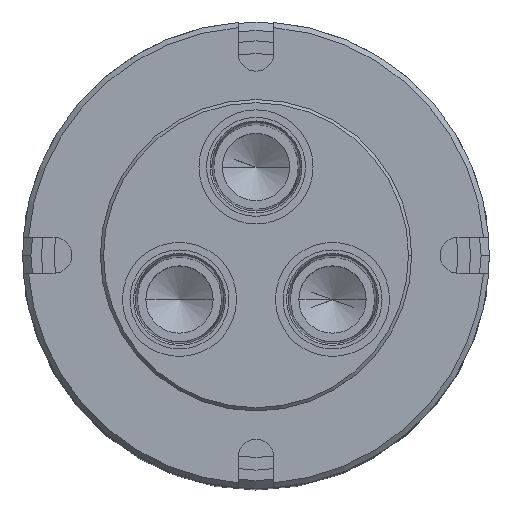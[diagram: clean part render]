
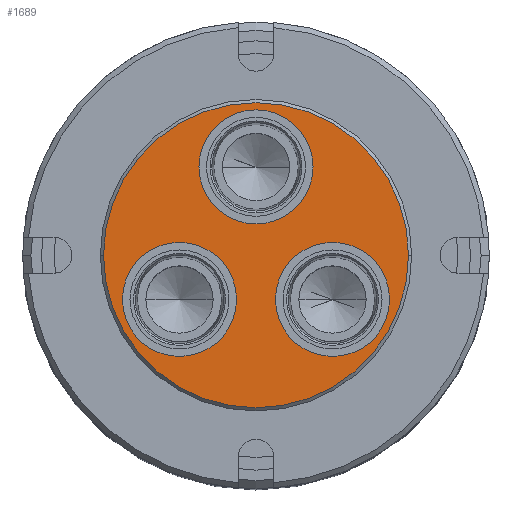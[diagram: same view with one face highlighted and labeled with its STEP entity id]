
A CAD part, top view. The second image highlights one B-rep face of the part: STEP entity #1689.
In plain terms, the highlighted planar face has unit normal (0, 0, 1).
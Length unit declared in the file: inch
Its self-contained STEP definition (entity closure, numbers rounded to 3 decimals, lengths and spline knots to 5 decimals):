
#87 = VERTEX_POINT ( 'NONE', #256 ) ;
#88 = VERTEX_POINT ( 'NONE', #257 ) ;
#89 = VERTEX_POINT ( 'NONE', #258 ) ;
#90 = VERTEX_POINT ( 'NONE', #259 ) ;
#106 = VERTEX_POINT ( 'NONE', #275 ) ;
#107 = VERTEX_POINT ( 'NONE', #276 ) ;
#256 = CARTESIAN_POINT ( 'NONE',  ( 0.847, 1.3125, 0. ) ) ;
#257 = CARTESIAN_POINT ( 'NONE',  ( -0.847, 1.3125, 0. ) ) ;
#258 = CARTESIAN_POINT ( 'NONE',  ( -2.2655, 0., 0. ) ) ;
#259 = CARTESIAN_POINT ( 'NONE',  ( 2.2655, 0., 0. ) ) ;
#275 = CARTESIAN_POINT ( 'NONE',  ( 1.98366, -0.65625, 0. ) ) ;
#276 = CARTESIAN_POINT ( 'NONE',  ( 0.28966, -0.65625, 0. ) ) ;
#449 = FACE_BOUND ( 'NONE', #6382, .T. ) ;
#451 = DIRECTION ( 'NONE',  ( 0., 0., -1. ) ) ;
#453 = PLANE ( 'NONE',  #4679 ) ;
#454 = FACE_BOUND ( 'NONE', #6380, .T. ) ;
#456 = CARTESIAN_POINT ( 'NONE',  ( 0., 0., 0. ) ) ;
#457 = FACE_BOUND ( 'NONE', #6377, .T. ) ;
#458 = FACE_OUTER_BOUND ( 'NONE', #6384, .T. ) ;
#459 = DIRECTION ( 'NONE',  ( -1., 0., 0. ) ) ;
#772 = CARTESIAN_POINT ( 'NONE',  ( 0., 1.3125, 0. ) ) ;
#773 = DIRECTION ( 'NONE',  ( 0., 0., 1. ) ) ;
#774 = DIRECTION ( 'NONE',  ( 1., 0., 0. ) ) ;
#886 = CARTESIAN_POINT ( 'NONE',  ( 1.13666, -0.65625, 0. ) ) ;
#887 = DIRECTION ( 'NONE',  ( 0., 0., 1. ) ) ;
#888 = DIRECTION ( 'NONE',  ( -0.5, -0.866, 0. ) ) ;
#982 = CARTESIAN_POINT ( 'NONE',  ( 0., 0., 0. ) ) ;
#983 = DIRECTION ( 'NONE',  ( 0., 0., 1. ) ) ;
#984 = DIRECTION ( 'NONE',  ( -1., 0., 0. ) ) ;
#1689 = ADVANCED_FACE ( 'NONE', ( #454, #449, #457, #458 ), #453, .F. ) ;
#1739 = EDGE_CURVE ( 'NONE', #88, #87, #4787, .T. ) ;
#1767 = EDGE_CURVE ( 'NONE', #107, #106, #4770, .T. ) ;
#1788 = EDGE_CURVE ( 'NONE', #89, #90, #4599, .T. ) ;
#3034 = EDGE_CURVE ( 'NONE', #6498, #6438, #5359, .T. ) ;
#3144 = EDGE_CURVE ( 'NONE', #90, #89, #5417, .T. ) ;
#3158 = EDGE_CURVE ( 'NONE', #106, #107, #5395, .T. ) ;
#3216 = EDGE_CURVE ( 'NONE', #6438, #6498, #3366, .T. ) ;
#3259 = EDGE_CURVE ( 'NONE', #87, #88, #3420, .T. ) ;
#3269 = AXIS2_PLACEMENT_3D ( 'NONE', #3859, #3860, #3861 ) ;
#3366 = CIRCLE ( 'NONE', #3368, 0.847 ) ;
#3368 = AXIS2_PLACEMENT_3D ( 'NONE', #4143, #4144, #4145 ) ;
#3420 = CIRCLE ( 'NONE', #3428, 0.847 ) ;
#3428 = AXIS2_PLACEMENT_3D ( 'NONE', #4447, #4448, #4449 ) ;
#3622 = CARTESIAN_POINT ( 'NONE',  ( -1.13666, -0.65625, 0. ) ) ;
#3623 = DIRECTION ( 'NONE',  ( 0., 0., 1. ) ) ;
#3624 = DIRECTION ( 'NONE',  ( -0.5, 0.866, 0. ) ) ;
#3809 = CARTESIAN_POINT ( 'NONE',  ( 0., 0., 0. ) ) ;
#3810 = DIRECTION ( 'NONE',  ( 0., 0., 1. ) ) ;
#3811 = DIRECTION ( 'NONE',  ( -1., 0., 0. ) ) ;
#3859 = CARTESIAN_POINT ( 'NONE',  ( 1.13666, -0.65625, 0. ) ) ;
#3860 = DIRECTION ( 'NONE',  ( 0., 0., 1. ) ) ;
#3861 = DIRECTION ( 'NONE',  ( -0.5, -0.866, 0. ) ) ;
#4143 = CARTESIAN_POINT ( 'NONE',  ( -1.13666, -0.65625, 0. ) ) ;
#4144 = DIRECTION ( 'NONE',  ( 0., 0., 1. ) ) ;
#4145 = DIRECTION ( 'NONE',  ( -0.5, 0.866, 0. ) ) ;
#4447 = CARTESIAN_POINT ( 'NONE',  ( 0., 1.3125, 0. ) ) ;
#4448 = DIRECTION ( 'NONE',  ( 0., 0., 1. ) ) ;
#4449 = DIRECTION ( 'NONE',  ( 1., 0., 0. ) ) ;
#4515 = CARTESIAN_POINT ( 'NONE',  ( -0.28966, -0.65625, 0. ) ) ;
#4599 = CIRCLE ( 'NONE', #4741, 2.2655 ) ;
#4679 = AXIS2_PLACEMENT_3D ( 'NONE', #456, #451, #459 ) ;
#4741 = AXIS2_PLACEMENT_3D ( 'NONE', #982, #983, #984 ) ;
#4768 = AXIS2_PLACEMENT_3D ( 'NONE', #772, #773, #774 ) ;
#4770 = CIRCLE ( 'NONE', #4864, 0.847 ) ;
#4787 = CIRCLE ( 'NONE', #4768, 0.847 ) ;
#4864 = AXIS2_PLACEMENT_3D ( 'NONE', #886, #887, #888 ) ;
#5275 = AXIS2_PLACEMENT_3D ( 'NONE', #3809, #3810, #3811 ) ;
#5334 = AXIS2_PLACEMENT_3D ( 'NONE', #3622, #3623, #3624 ) ;
#5359 = CIRCLE ( 'NONE', #5334, 0.847 ) ;
#5395 = CIRCLE ( 'NONE', #3269, 0.847 ) ;
#5417 = CIRCLE ( 'NONE', #5275, 2.2655 ) ;
#5505 = CARTESIAN_POINT ( 'NONE',  ( -1.98366, -0.65625, 0. ) ) ;
#5893 = ORIENTED_EDGE ( 'NONE', *, *, #3144, .T. ) ;
#5894 = ORIENTED_EDGE ( 'NONE', *, *, #1788, .T. ) ;
#5895 = ORIENTED_EDGE ( 'NONE', *, *, #1739, .F. ) ;
#5896 = ORIENTED_EDGE ( 'NONE', *, *, #3259, .F. ) ;
#5897 = ORIENTED_EDGE ( 'NONE', *, *, #1767, .F. ) ;
#5898 = ORIENTED_EDGE ( 'NONE', *, *, #3158, .F. ) ;
#5899 = ORIENTED_EDGE ( 'NONE', *, *, #3034, .F. ) ;
#5900 = ORIENTED_EDGE ( 'NONE', *, *, #3216, .F. ) ;
#6377 = EDGE_LOOP ( 'NONE', ( #5896, #5895 ) ) ;
#6380 = EDGE_LOOP ( 'NONE', ( #5900, #5899 ) ) ;
#6382 = EDGE_LOOP ( 'NONE', ( #5898, #5897 ) ) ;
#6384 = EDGE_LOOP ( 'NONE', ( #5894, #5893 ) ) ;
#6438 = VERTEX_POINT ( 'NONE', #4515 ) ;
#6498 = VERTEX_POINT ( 'NONE', #5505 ) ;
